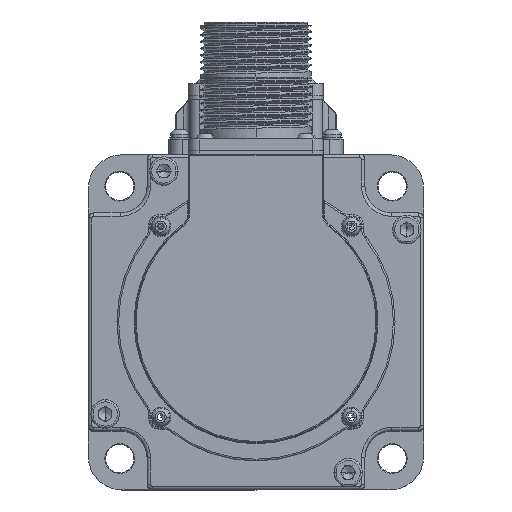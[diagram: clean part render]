
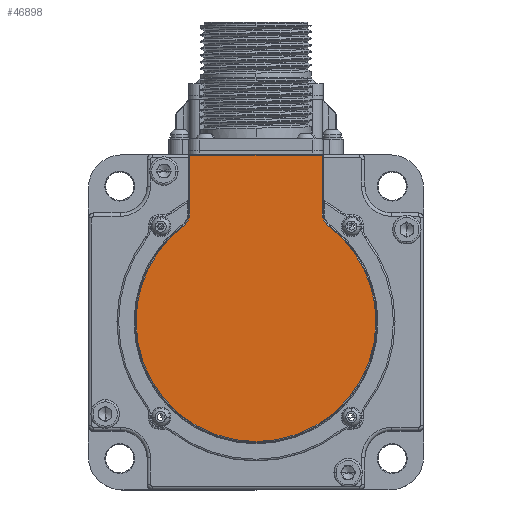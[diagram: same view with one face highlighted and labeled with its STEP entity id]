
A CAD part, top view. The second image highlights one B-rep face of the part: STEP entity #46898.
In plain terms, the highlighted planar face has unit normal (0, 0, 1).
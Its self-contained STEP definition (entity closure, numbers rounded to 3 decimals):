
#321 = CARTESIAN_POINT ( 'NONE',  ( -87.572, -9.741, 262.2 ) ) ;
#1377 = AXIS2_PLACEMENT_3D ( 'NONE', #72030, #78026, #54022 ) ;
#2010 = CARTESIAN_POINT ( 'NONE',  ( -15.972, -9.741, 262.2 ) ) ;
#2062 = DIRECTION ( 'NONE',  ( -1., 0., 0. ) ) ;
#2444 = ORIENTED_EDGE ( 'NONE', *, *, #47207, .T. ) ;
#4478 = EDGE_CURVE ( 'NONE', #57277, #56258, #49917, .T. ) ;
#5833 = AXIS2_PLACEMENT_3D ( 'NONE', #75645, #46084, #62875 ) ;
#7312 = DIRECTION ( 'NONE',  ( 0., 0., -1. ) ) ;
#8428 = ORIENTED_EDGE ( 'NONE', *, *, #4478, .T. ) ;
#8654 = CIRCLE ( 'NONE', #18838, 5.3 ) ;
#11538 = DIRECTION ( 'NONE',  ( 1., 0., 0. ) ) ;
#12650 = EDGE_CURVE ( 'NONE', #26833, #39628, #8654, .T. ) ;
#12709 = CARTESIAN_POINT ( 'NONE',  ( -51.772, -9.741, 262.2 ) ) ;
#13524 = DIRECTION ( 'NONE',  ( 0., -1., 0. ) ) ;
#14027 = CARTESIAN_POINT ( 'NONE',  ( -71.772, 39.959, 262.2 ) ) ;
#14864 = DIRECTION ( 'NONE',  ( 1., 0., 0. ) ) ;
#15446 = FACE_OUTER_BOUND ( 'NONE', #45472, .T. ) ;
#17065 = ORIENTED_EDGE ( 'NONE', *, *, #35176, .T. ) ;
#17524 = AXIS2_PLACEMENT_3D ( 'NONE', #34090, #70800, #76845 ) ;
#18315 = CARTESIAN_POINT ( 'NONE',  ( -32.072, 40.259, 262.2 ) ) ;
#18838 = AXIS2_PLACEMENT_3D ( 'NONE', #67044, #43071, #37087 ) ;
#20509 = AXIS2_PLACEMENT_3D ( 'NONE', #45358, #7312, #14864 ) ;
#20761 = ORIENTED_EDGE ( 'NONE', *, *, #12650, .T. ) ;
#20823 = CARTESIAN_POINT ( 'NONE',  ( -32.072, 22.881, 262.2 ) ) ;
#22883 = CIRCLE ( 'NONE', #17524, 35.8 ) ;
#24620 = VECTOR ( 'NONE', #13524, 1000. ) ;
#26833 = VERTEX_POINT ( 'NONE', #37165 ) ;
#28876 = VERTEX_POINT ( 'NONE', #321 ) ;
#30563 = AXIS2_PLACEMENT_3D ( 'NONE', #12709, #73099, #11538 ) ;
#30780 = DIRECTION ( 'NONE',  ( 0., 1., 0. ) ) ;
#34090 = CARTESIAN_POINT ( 'NONE',  ( -51.772, -9.741, 262.2 ) ) ;
#34116 = PLANE ( 'NONE',  #1377 ) ;
#34681 = CARTESIAN_POINT ( 'NONE',  ( -73.549, 18.674, 262.2 ) ) ;
#35176 = EDGE_CURVE ( 'NONE', #74045, #57277, #67119, .T. ) ;
#36752 = CARTESIAN_POINT ( 'NONE',  ( -71.472, 22.881, 262.2 ) ) ;
#37087 = DIRECTION ( 'NONE',  ( 1., 0., 0. ) ) ;
#37129 = LINE ( 'NONE', #36752, #24620 ) ;
#37165 = CARTESIAN_POINT ( 'NONE',  ( -71.472, 22.881, 262.2 ) ) ;
#37929 = CARTESIAN_POINT ( 'NONE',  ( -71.472, 39.959, 262.2 ) ) ;
#38111 = EDGE_CURVE ( 'NONE', #39628, #28876, #22883, .T. ) ;
#38548 = EDGE_CURVE ( 'NONE', #28876, #74045, #44591, .T. ) ;
#38919 = ORIENTED_EDGE ( 'NONE', *, *, #59661, .T. ) ;
#39556 = ORIENTED_EDGE ( 'NONE', *, *, #38111, .T. ) ;
#39628 = VERTEX_POINT ( 'NONE', #34681 ) ;
#43071 = DIRECTION ( 'NONE',  ( 0., 0., -1. ) ) ;
#44591 = CIRCLE ( 'NONE', #30563, 35.8 ) ;
#45358 = CARTESIAN_POINT ( 'NONE',  ( -26.772, 22.881, 262.2 ) ) ;
#45472 = EDGE_LOOP ( 'NONE', ( #38919, #63975, #20761, #39556, #61818, #17065, #8428, #2444 ) ) ;
#46084 = DIRECTION ( 'NONE',  ( 0., 0., 1. ) ) ;
#46797 = VERTEX_POINT ( 'NONE', #37929 ) ;
#46898 = ADVANCED_FACE ( 'NONE', ( #15446 ), #34116, .T. ) ;
#47207 = EDGE_CURVE ( 'NONE', #56258, #76907, #47988, .T. ) ;
#47988 = LINE ( 'NONE', #18315, #74247 ) ;
#49917 = CIRCLE ( 'NONE', #20509, 5.3 ) ;
#52885 = VECTOR ( 'NONE', #2062, 1000. ) ;
#53891 = CARTESIAN_POINT ( 'NONE',  ( -32.072, 39.959, 262.2 ) ) ;
#54022 = DIRECTION ( 'NONE',  ( 1., 0., 0. ) ) ;
#56258 = VERTEX_POINT ( 'NONE', #20823 ) ;
#57277 = VERTEX_POINT ( 'NONE', #67323 ) ;
#59661 = EDGE_CURVE ( 'NONE', #76907, #46797, #68790, .T. ) ;
#61818 = ORIENTED_EDGE ( 'NONE', *, *, #38548, .T. ) ;
#62875 = DIRECTION ( 'NONE',  ( 1., 0., 0. ) ) ;
#63975 = ORIENTED_EDGE ( 'NONE', *, *, #65777, .T. ) ;
#65777 = EDGE_CURVE ( 'NONE', #46797, #26833, #37129, .T. ) ;
#67044 = CARTESIAN_POINT ( 'NONE',  ( -76.772, 22.881, 262.2 ) ) ;
#67119 = CIRCLE ( 'NONE', #5833, 35.8 ) ;
#67323 = CARTESIAN_POINT ( 'NONE',  ( -29.996, 18.674, 262.2 ) ) ;
#68790 = LINE ( 'NONE', #14027, #52885 ) ;
#70800 = DIRECTION ( 'NONE',  ( 0., 0., 1. ) ) ;
#72030 = CARTESIAN_POINT ( 'NONE',  ( -51.772, -9.741, 262.2 ) ) ;
#73099 = DIRECTION ( 'NONE',  ( 0., 0., 1. ) ) ;
#74045 = VERTEX_POINT ( 'NONE', #2010 ) ;
#74247 = VECTOR ( 'NONE', #30780, 1000. ) ;
#75645 = CARTESIAN_POINT ( 'NONE',  ( -51.772, -9.741, 262.2 ) ) ;
#76845 = DIRECTION ( 'NONE',  ( 1., 0., 0. ) ) ;
#76907 = VERTEX_POINT ( 'NONE', #53891 ) ;
#78026 = DIRECTION ( 'NONE',  ( 0., 0., 1. ) ) ;
